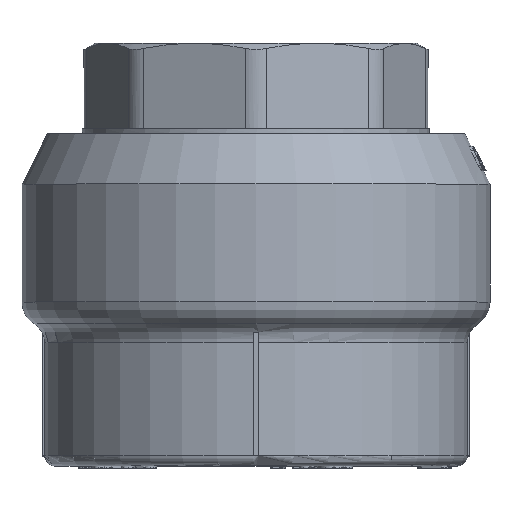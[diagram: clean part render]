
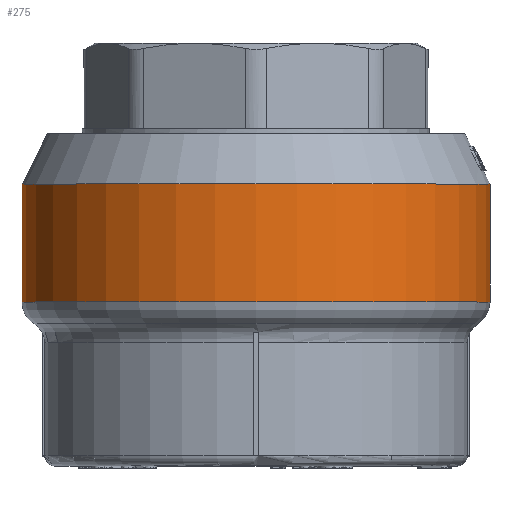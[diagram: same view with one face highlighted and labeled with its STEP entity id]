
A CAD part, top view. The second image highlights one B-rep face of the part: STEP entity #275.
In plain terms, the highlighted cylindrical face has radius 46.5 mm (diameter 93 mm), a full revolution.
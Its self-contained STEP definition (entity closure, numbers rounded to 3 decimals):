
#275=ADVANCED_FACE('',(#1343,#1345),#1347,.T.);
#1343=FACE_OUTER_BOUND('',#1344,.T.);
#1344=EDGE_LOOP('',(#7460));
#1345=FACE_OUTER_BOUND('',#1346,.T.);
#1346=EDGE_LOOP('',(#7461));
#1347=CYLINDRICAL_SURFACE('',#1348,46.5);
#1348=AXIS2_PLACEMENT_3D('',#1349,#1350,#1351);
#1349=CARTESIAN_POINT('',(0.,29.,0.));
#1350=DIRECTION('',(0.,1.,0.));
#1351=DIRECTION('',(-1.,0.,0.));
#7460=ORIENTED_EDGE('',*,*,#13099,.T.);
#7461=ORIENTED_EDGE('',*,*,#13293,.T.);
#13099=EDGE_CURVE('',#15426,#15426,#15427,.T.);
#13293=EDGE_CURVE('',#15790,#15790,#15791,.T.);
#15426=VERTEX_POINT('',#19348);
#15427=CIRCLE('',#19349,46.5);
#15790=VERTEX_POINT('',#21253);
#15791=CIRCLE('',#21254,46.5);
#19348=CARTESIAN_POINT('',(-46.5,56.,0.));
#19349=AXIS2_PLACEMENT_3D('',#19350,#19351,#19352);
#19350=CARTESIAN_POINT('',(0.,56.,0.));
#19351=DIRECTION('',(0.,-1.,0.));
#19352=DIRECTION('',(-1.,0.,0.));
#21253=CARTESIAN_POINT('',(-46.5,32.578,0.));
#21254=AXIS2_PLACEMENT_3D('',#21255,#21256,#21257);
#21255=CARTESIAN_POINT('',(0.,32.578,0.));
#21256=DIRECTION('',(0.,1.,0.));
#21257=DIRECTION('',(-1.,0.,0.));
